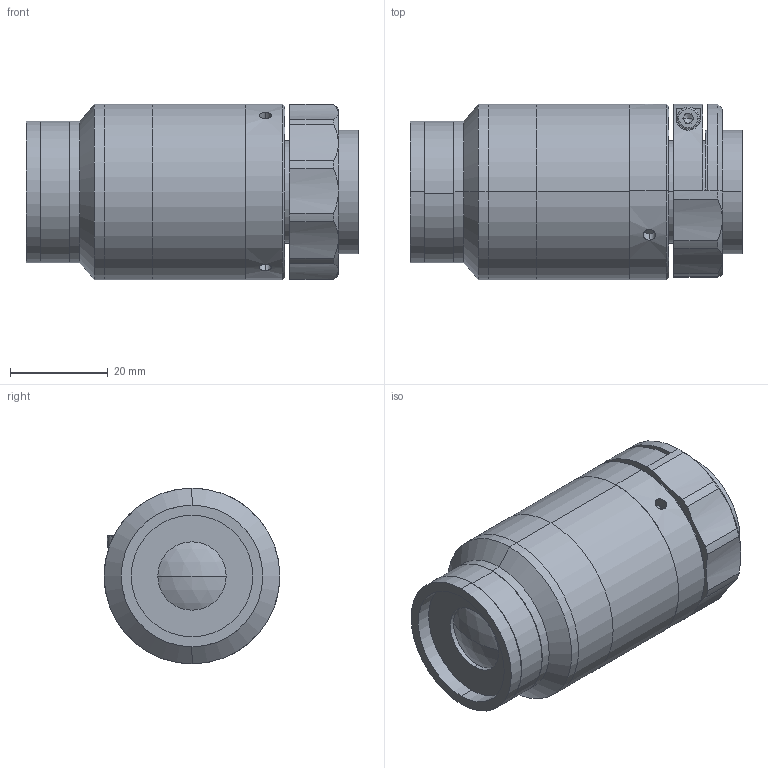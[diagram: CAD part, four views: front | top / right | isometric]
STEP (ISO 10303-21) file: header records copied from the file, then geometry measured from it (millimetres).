
FILE_DESCRIPTION (( 'STEP AP203' ), '1' );
FILE_NAME ('XF-MH06X96.STEP', '2020-08-24T07:07:08', ( 'canrill-02' ), ( '' ), 'SwSTEP 2.0', 'SolidWorks 2014', '' );
FILE_SCHEMA (( 'CONFIG_CONTROL_DESIGN' ));
Length unit declared in the file: millimetre
Products named in the file (1): XF-MH06X96
Bounding box: 68.02 x 36 x 36 mm (x, y, z)
Surface area: 13856.4 mm2 (no closed solid volume)
Topology: 0 solids, 12 shells, 104 faces, 274 edges, 186 vertices
Faces by surface type: cylinder 49, plane 36, cone 15, sphere 2, torus 2
Entity records: 3601 total; most frequent: CARTESIAN_POINT 884, DIRECTION 607, ORIENTED_EDGE 466, EDGE_CURVE 272, AXIS2_PLACEMENT_3D 253, VERTEX_POINT 186, CIRCLE 148, EDGE_LOOP 130
